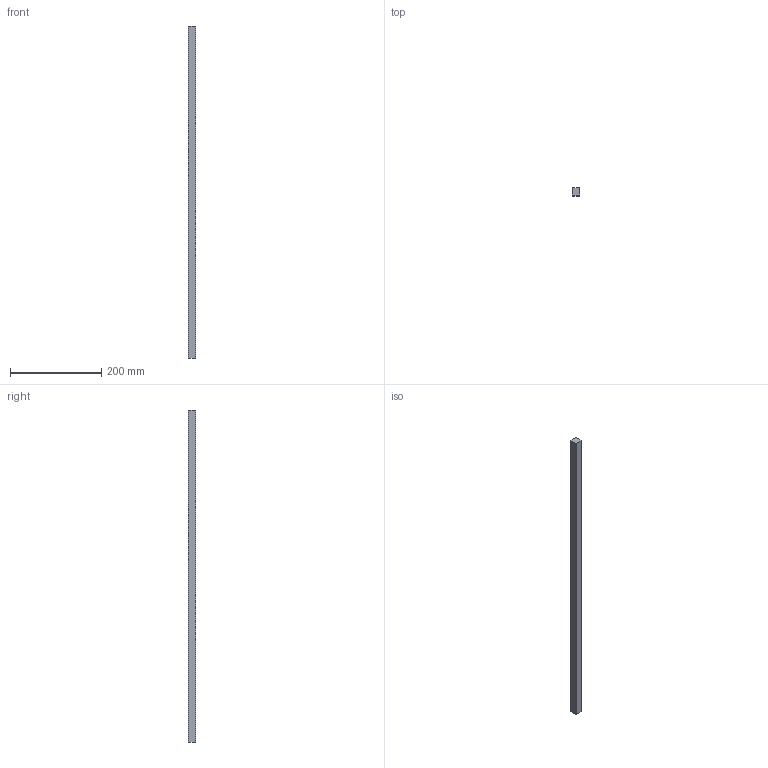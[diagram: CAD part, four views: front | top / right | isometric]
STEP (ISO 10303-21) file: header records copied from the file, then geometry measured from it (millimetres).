
FILE_DESCRIPTION (( 'STEP AP203' ), '1' );
FILE_NAME ('SPDEG01_V0.STEP', '2018-06-07T08:09:07', ( '' ), ( '' ), 'SwSTEP 2.0', 'SolidWorks 2017', '' );
FILE_SCHEMA (( 'CONFIG_CONTROL_DESIGN' ));
Length unit declared in the file: millimetre
Products named in the file (2): SPDEG01_V0
Bounding box: 17 x 17 x 727.5 mm (x, y, z)
Volume: 209623 mm3; surface area: 48797.3 mm2
Topology: 1 solids, 1 shells, 10 faces, 24 edges, 16 vertices
Faces by surface type: plane 6, cylinder 4
Entity records: 451 total; most frequent: DIRECTION 56, CARTESIAN_POINT 52, ORIENTED_EDGE 48, EDGE_CURVE 24, AXIS2_PLACEMENT_3D 20, LINE 16, VERTEX_POINT 16, PERSON_AND_ORGANIZATION 16
